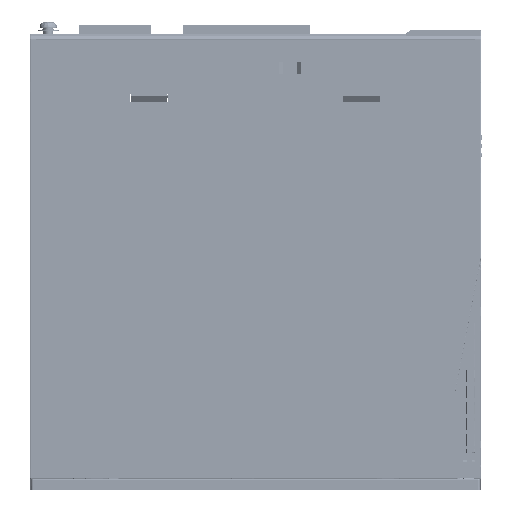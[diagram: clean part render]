
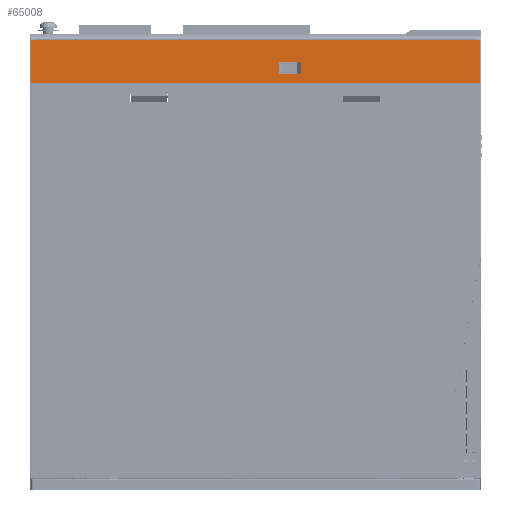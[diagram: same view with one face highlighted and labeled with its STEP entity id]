
A CAD part, front view. The second image highlights one B-rep face of the part: STEP entity #65008.
In plain terms, the highlighted planar face has unit normal (0, -1, 0).
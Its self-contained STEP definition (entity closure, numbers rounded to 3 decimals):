
#1178=FACE_BOUND('',#91143,.T.);
#65008=ADVANCED_FACE('',(#77950,#1178),#364928,.T.);
#77950=FACE_OUTER_BOUND('',#91142,.T.);
#91142=EDGE_LOOP('',(#133482,#133483,#133484,#133485));
#91143=EDGE_LOOP('',(#133486,#133487,#133488,#133489));
#133482=ORIENTED_EDGE('',*,*,#202349,.T.);
#133483=ORIENTED_EDGE('',*,*,#202350,.T.);
#133484=ORIENTED_EDGE('',*,*,#202348,.F.);
#133485=ORIENTED_EDGE('',*,*,#202351,.T.);
#133486=ORIENTED_EDGE('',*,*,#202355,.T.);
#133487=ORIENTED_EDGE('',*,*,#202352,.T.);
#133488=ORIENTED_EDGE('',*,*,#202353,.T.);
#133489=ORIENTED_EDGE('',*,*,#202354,.T.);
#202348=EDGE_CURVE('',#328462,#328463,#266494,.T.);
#202349=EDGE_CURVE('',#328464,#328465,#266495,.T.);
#202350=EDGE_CURVE('',#328465,#328463,#266496,.T.);
#202351=EDGE_CURVE('',#328462,#328464,#266497,.T.);
#202352=EDGE_CURVE('',#328466,#328467,#266498,.T.);
#202353=EDGE_CURVE('',#328467,#328468,#266499,.T.);
#202354=EDGE_CURVE('',#328468,#328469,#266500,.T.);
#202355=EDGE_CURVE('',#328469,#328466,#266501,.T.);
#266494=B_SPLINE_CURVE_WITH_KNOTS('',1,(#682254,#682255),.UNSPECIFIED.,
 .F.,.F.,(2,2),(0.,184.601),.UNSPECIFIED.);
#266495=B_SPLINE_CURVE_WITH_KNOTS('',1,(#682256,#682257),.UNSPECIFIED.,
 .F.,.F.,(2,2),(-184.601,0.),.UNSPECIFIED.);
#266496=B_SPLINE_CURVE_WITH_KNOTS('',1,(#682258,#682259),.UNSPECIFIED.,
 .F.,.F.,(2,2),(0.,17.5),.UNSPECIFIED.);
#266497=B_SPLINE_CURVE_WITH_KNOTS('',1,(#682260,#682261),.UNSPECIFIED.,
 .F.,.F.,(2,2),(0.,17.5),.UNSPECIFIED.);
#266498=B_SPLINE_CURVE_WITH_KNOTS('',1,(#682262,#682263),.UNSPECIFIED.,
 .F.,.F.,(2,2),(-9.,0.),.UNSPECIFIED.);
#266499=B_SPLINE_CURVE_WITH_KNOTS('',1,(#682264,#682265),.UNSPECIFIED.,
 .F.,.F.,(2,2),(0.,5.08),.UNSPECIFIED.);
#266500=B_SPLINE_CURVE_WITH_KNOTS('',1,(#682266,#682267),.UNSPECIFIED.,
 .F.,.F.,(2,2),(-9.,0.),.UNSPECIFIED.);
#266501=B_SPLINE_CURVE_WITH_KNOTS('',1,(#682268,#682269),.UNSPECIFIED.,
 .F.,.F.,(2,2),(0.,5.08),.UNSPECIFIED.);
#328462=VERTEX_POINT('',#682246);
#328463=VERTEX_POINT('',#682247);
#328464=VERTEX_POINT('',#682248);
#328465=VERTEX_POINT('',#682249);
#328466=VERTEX_POINT('',#682250);
#328467=VERTEX_POINT('',#682251);
#328468=VERTEX_POINT('',#682252);
#328469=VERTEX_POINT('',#682253);
#364928=PLANE('',#370503);
#370503=AXIS2_PLACEMENT_3D('',#682245,#376062,$);
#376062=DIRECTION('',(0.,-1.,0.));
#682245=CARTESIAN_POINT('',(187.823,-367.493,-18.81));
#682246=CARTESIAN_POINT('',(169.303,-367.493,-17.));
#682247=CARTESIAN_POINT('',(-15.298,-367.493,-17.));
#682248=CARTESIAN_POINT('',(169.303,-367.493,0.5));
#682249=CARTESIAN_POINT('',(-15.298,-367.493,0.5));
#682250=CARTESIAN_POINT('',(95.683,-367.493,-13.54));
#682251=CARTESIAN_POINT('',(86.683,-367.493,-13.54));
#682252=CARTESIAN_POINT('',(86.683,-367.493,-8.46));
#682253=CARTESIAN_POINT('',(95.683,-367.493,-8.46));
#682254=CARTESIAN_POINT('',(169.303,-367.493,-17.));
#682255=CARTESIAN_POINT('',(-15.298,-367.493,-17.));
#682256=CARTESIAN_POINT('',(169.303,-367.493,0.5));
#682257=CARTESIAN_POINT('',(-15.298,-367.493,0.5));
#682258=CARTESIAN_POINT('',(-15.298,-367.493,0.5));
#682259=CARTESIAN_POINT('',(-15.298,-367.493,-17.));
#682260=CARTESIAN_POINT('',(169.303,-367.493,-17.));
#682261=CARTESIAN_POINT('',(169.303,-367.493,0.5));
#682262=CARTESIAN_POINT('',(95.683,-367.493,-13.54));
#682263=CARTESIAN_POINT('',(86.683,-367.493,-13.54));
#682264=CARTESIAN_POINT('',(86.683,-367.493,-13.54));
#682265=CARTESIAN_POINT('',(86.683,-367.493,-8.46));
#682266=CARTESIAN_POINT('',(86.683,-367.493,-8.46));
#682267=CARTESIAN_POINT('',(95.683,-367.493,-8.46));
#682268=CARTESIAN_POINT('',(95.683,-367.493,-8.46));
#682269=CARTESIAN_POINT('',(95.683,-367.493,-13.54));
